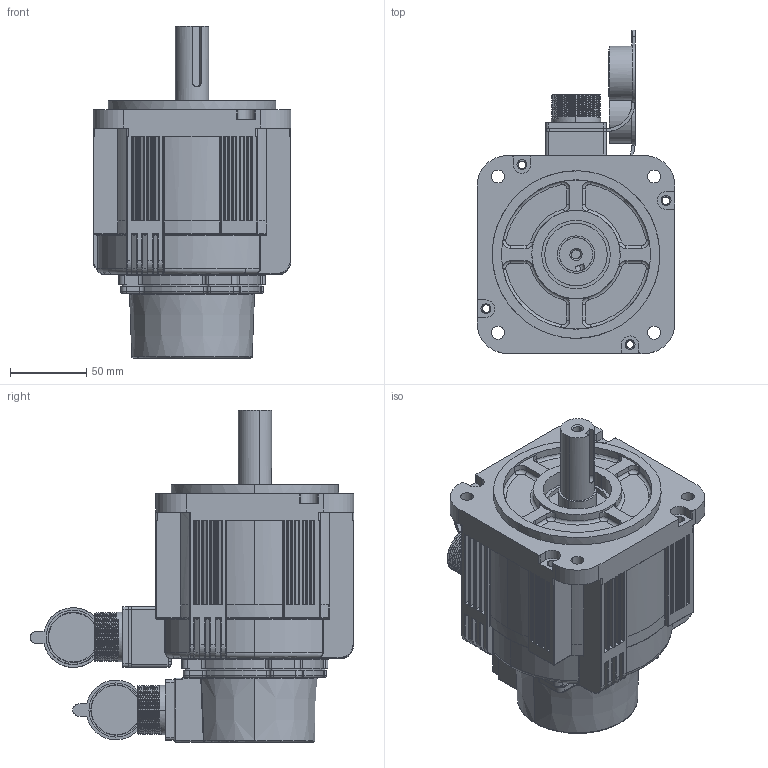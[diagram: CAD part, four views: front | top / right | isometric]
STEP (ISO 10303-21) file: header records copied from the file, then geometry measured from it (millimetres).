
FILE_DESCRIPTION(('CATIA V5 STEP Exchange'),'2;1');
FILE_NAME('F:\公司\常规伺服\130伺服电机图纸\130A\3D\雷赛低压\130A-06430DB 2.stp','2022-08-22T06:14:54+00:00',('none'),('none'),'CATIA Version 5 Release 20 GA (IN-10)','CATIA V5 STEP AP203','none');
FILE_SCHEMA(('CONFIG_CONTROL_DESIGN'));
Length unit declared in the file: millimetre
Products named in the file (1): 130A-6.4装配体_AllCATPart
Bounding box: 130 x 212.49 x 218 mm (x, y, z)
Volume: 837171.5 mm3; surface area: 301360 mm2
Topology: 1 solids, 5 shells, 2227 faces, 5521 edges, 3332 vertices
Faces by surface type: cylinder 937, plane 568, bspline 383, torus 192, sphere 112, cone 23, revolution 12
Entity records: 72153 total; most frequent: CARTESIAN_POINT 26412, ORIENTED_EDGE 10782, DIRECTION 7117, EDGE_CURVE 5391, AXIS2_PLACEMENT_3D 3469, VERTEX_POINT 3332, EDGE_LOOP 2412, ADVANCED_FACE 2227
